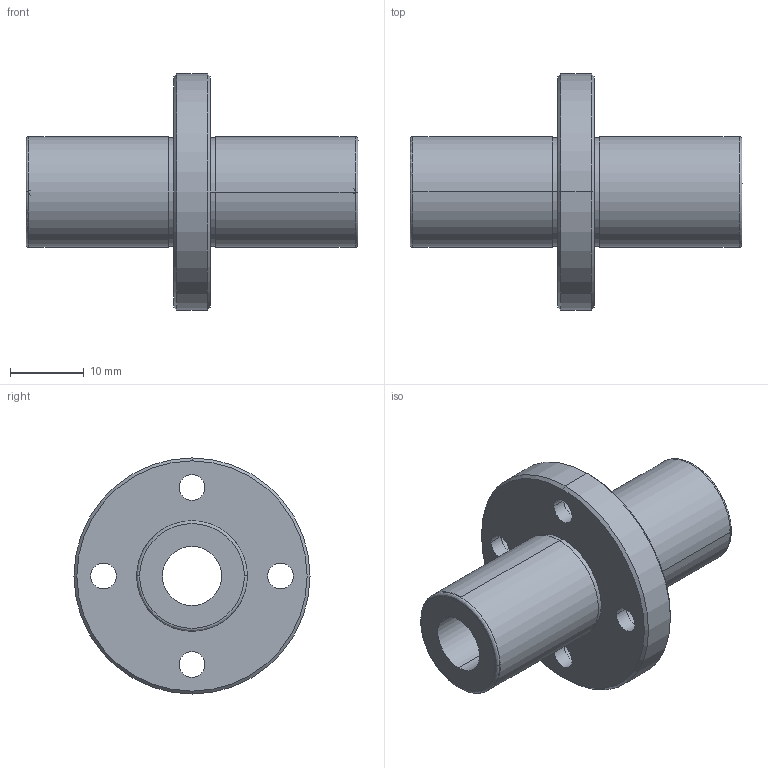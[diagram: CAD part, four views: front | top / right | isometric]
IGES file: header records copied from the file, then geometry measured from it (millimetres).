
Start section: 3D InterOp IGES (Version 21 0 1), Spatial Corp. Copyright (c) 1999-2007.
Global section: file name: NFCD-8VLUU.igs; native system: Spatial Corp.; preprocessor: 3D InterOp GENERIC/IGES 3.0; author: Noname; organization: Noname; date: 20220308.132011; units: millimetre
Bounding box: 45 x 32 x 32 mm (x, y, z)
Surface area: 5562 mm2 (no closed solid volume)
Topology: 0 solids, 0 shells, 46 faces, 214 edges, 210 vertices
Faces by surface type: revolution 36, extrusion 10
